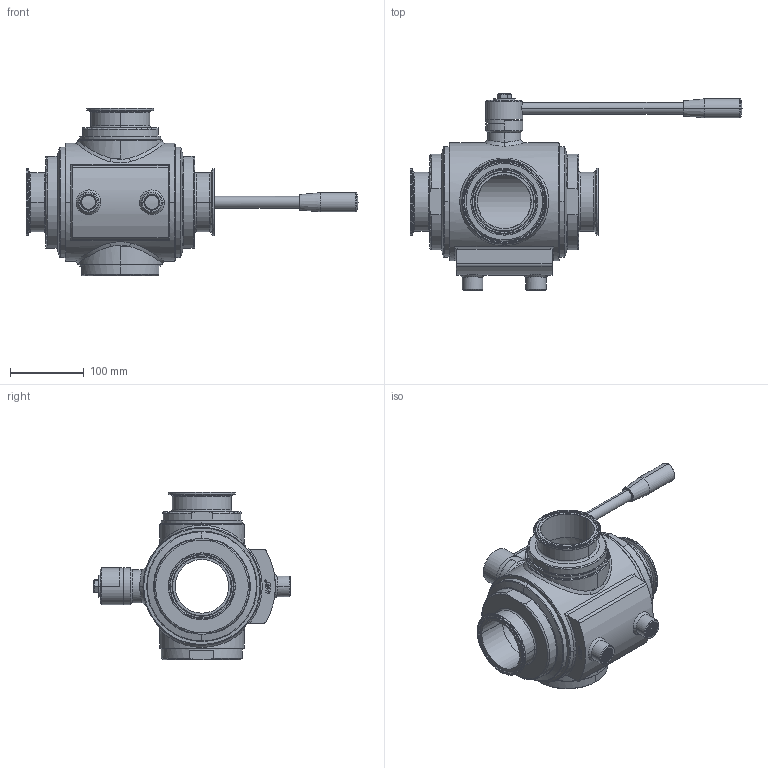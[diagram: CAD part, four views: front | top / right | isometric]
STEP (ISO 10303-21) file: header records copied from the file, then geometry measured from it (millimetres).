
FILE_DESCRIPTION((''),'2;1');
FILE_NAME('300130C64810_SW0001','2026-06-09T11:18:03',('tecnico2'),('CDM Tecnoconsulting'),'CREO PARAMETRIC BY PTC INC, 2024063','CREO PARAMETRIC BY PTC INC, 2024063','');
FILE_SCHEMA(('CONFIG_CONTROL_DESIGN','SHAPE_APPEARANCE_LAYERS_GROUPS'));
Products named in the file (1): 300130C64810_SW0001
Bounding box: 451 x 266.8 x 228 mm (x, y, z)
Volume: 2986891.3 mm3; surface area: 482792.6 mm2
Topology: 1 solids, 1 shells, 1371 faces, 3591 edges, 2288 vertices
Faces by surface type: plane 565, cylinder 257, extrusion 221, cone 158, torus 84, bspline 80, sphere 6
Entity records: 79017 total; most frequent: CARTESIAN_POINT 25823, ORIENTED_EDGE 7146, DIRECTION 5684, PRESENTATION_STYLE_ASSIGNMENT 5166, STYLED_ITEM 3795, CURVE_STYLE 3794, EDGE_CURVE 3573, VERTEX_POINT 2288
